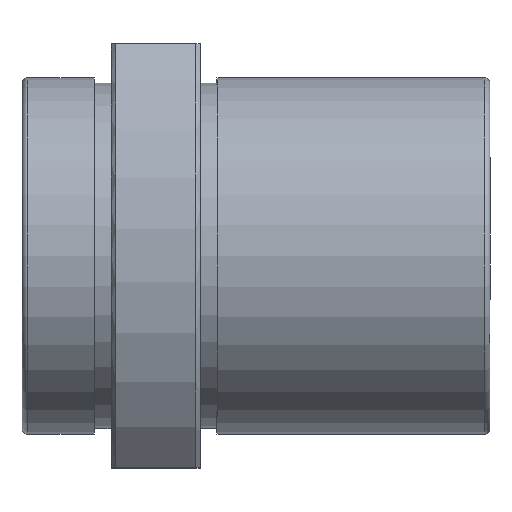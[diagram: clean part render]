
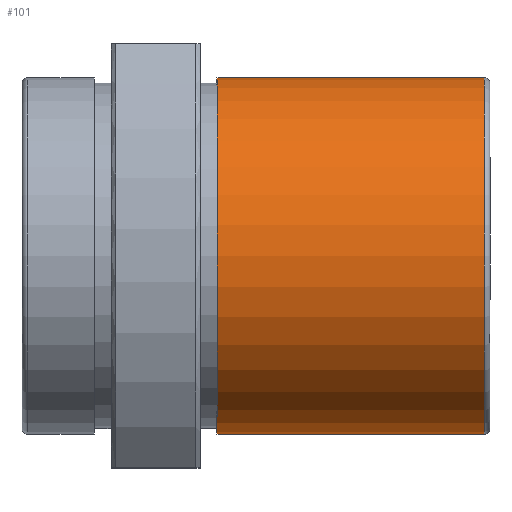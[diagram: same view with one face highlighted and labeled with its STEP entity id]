
A CAD part, top view. The second image highlights one B-rep face of the part: STEP entity #101.
In plain terms, the highlighted cylindrical face has radius 16 mm (diameter 32 mm), a full revolution.
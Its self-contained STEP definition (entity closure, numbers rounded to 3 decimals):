
#101=ADVANCED_FACE('',(#187,#188),#189,.T.);
#187=FACE_OUTER_BOUND('',#286,.T.);
#188=FACE_OUTER_BOUND('',#287,.T.);
#189=CYLINDRICAL_SURFACE('',#288,16.0);
#286=EDGE_LOOP('',(#475));
#287=EDGE_LOOP('',(#476));
#288=AXIS2_PLACEMENT_3D('',#477,#478,#479);
#475=ORIENTED_EDGE('',*,*,#558,.T.);
#476=ORIENTED_EDGE('',*,*,#535,.T.);
#477=CARTESIAN_POINT('',(26.0,0.,0.));
#478=DIRECTION('',(1.0,0.,0.));
#479=DIRECTION('',(0.,-1.0,0.));
#535=EDGE_CURVE('',#609,#609,#610,.F.);
#558=EDGE_CURVE('',#650,#650,#651,.T.);
#609=VERTEX_POINT('',#728);
#610=CIRCLE('',#729,16.0);
#650=VERTEX_POINT('',#778);
#651=CIRCLE('',#779,16.0);
#728=CARTESIAN_POINT('',(25.5,0.,-16.0));
#729=AXIS2_PLACEMENT_3D('',#833,#834,#835);
#778=CARTESIAN_POINT('',(1.5,0.,-16.0));
#779=AXIS2_PLACEMENT_3D('',#890,#891,#892);
#833=CARTESIAN_POINT('',(25.5,0.,0.));
#834=DIRECTION('',(1.0,0.,0.));
#835=DIRECTION('',(0.,0.0,-1.0));
#890=CARTESIAN_POINT('',(1.5,0.,0.));
#891=DIRECTION('',(1.0,0.,0.));
#892=DIRECTION('',(0.,0.0,-1.0));
